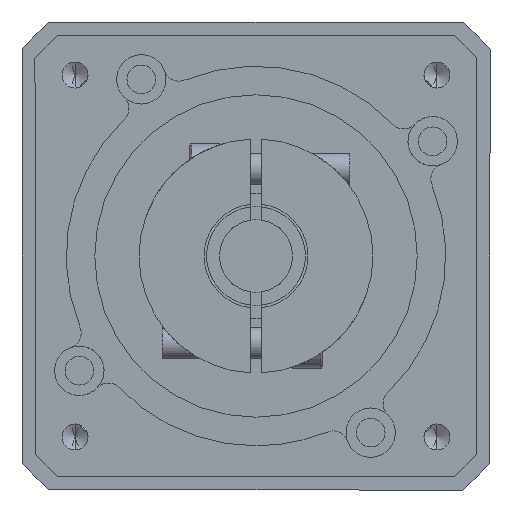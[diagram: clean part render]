
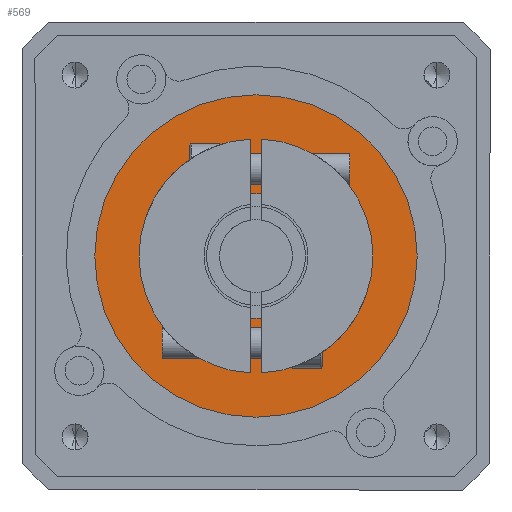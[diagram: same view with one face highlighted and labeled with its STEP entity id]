
A CAD part, front view. The second image highlights one B-rep face of the part: STEP entity #569.
In plain terms, the highlighted planar face has unit normal (0, -1, 0).
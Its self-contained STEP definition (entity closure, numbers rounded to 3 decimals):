
#74 = CARTESIAN_POINT ( 'NONE',  ( 0., -95.6, 12. ) ) ;
#220 = EDGE_CURVE ( 'NONE', #2511, #7448, #6082, .T. ) ;
#518 = EDGE_LOOP ( 'NONE', ( #7214, #2269 ) ) ;
#569 = ADVANCED_FACE ( 'NONE', ( #705, #2346 ), #836, .F. ) ;
#672 = DIRECTION ( 'NONE',  ( 0., 1., 0. ) ) ;
#705 = FACE_OUTER_BOUND ( 'NONE', #518, .T. ) ;
#746 = DIRECTION ( 'NONE',  ( 0., 1., 0. ) ) ;
#836 = PLANE ( 'NONE',  #5217 ) ;
#1343 = CARTESIAN_POINT ( 'NONE',  ( 0., -95.6, -31. ) ) ;
#1371 = AXIS2_PLACEMENT_3D ( 'NONE', #3661, #7941, #4293 ) ;
#1515 = CIRCLE ( 'NONE', #4508, 12. ) ;
#1559 = CARTESIAN_POINT ( 'NONE',  ( 0., -95.6, -12. ) ) ;
#2081 = AXIS2_PLACEMENT_3D ( 'NONE', #6795, #672, #4965 ) ;
#2269 = ORIENTED_EDGE ( 'NONE', *, *, #6586, .F. ) ;
#2346 = FACE_BOUND ( 'NONE', #5968, .T. ) ;
#2505 = AXIS2_PLACEMENT_3D ( 'NONE', #7212, #3560, #7839 ) ;
#2511 = VERTEX_POINT ( 'NONE', #7373 ) ;
#2992 = EDGE_CURVE ( 'NONE', #5127, #7878, #1515, .T. ) ;
#3560 = DIRECTION ( 'NONE',  ( 0., 1., 0. ) ) ;
#3661 = CARTESIAN_POINT ( 'NONE',  ( 0., -95.6, 0. ) ) ;
#3766 = DIRECTION ( 'NONE',  ( 0., 0., 1. ) ) ;
#3870 = DIRECTION ( 'NONE',  ( 0., 1., 0. ) ) ;
#4293 = DIRECTION ( 'NONE',  ( 0., 0., 1. ) ) ;
#4430 = CARTESIAN_POINT ( 'NONE',  ( 0., -95.6, 0. ) ) ;
#4508 = AXIS2_PLACEMENT_3D ( 'NONE', #4430, #746, #5052 ) ;
#4629 = CIRCLE ( 'NONE', #2505, 31. ) ;
#4965 = DIRECTION ( 'NONE',  ( 0., 0., 1. ) ) ;
#5052 = DIRECTION ( 'NONE',  ( 0., 0., 1. ) ) ;
#5127 = VERTEX_POINT ( 'NONE', #1559 ) ;
#5217 = AXIS2_PLACEMENT_3D ( 'NONE', #74, #3870, #3766 ) ;
#5295 = ORIENTED_EDGE ( 'NONE', *, *, #2992, .T. ) ;
#5399 = CARTESIAN_POINT ( 'NONE',  ( 0., -95.6, 12. ) ) ;
#5687 = EDGE_CURVE ( 'NONE', #7878, #5127, #6944, .T. ) ;
#5789 = ORIENTED_EDGE ( 'NONE', *, *, #5687, .T. ) ;
#5968 = EDGE_LOOP ( 'NONE', ( #5789, #5295 ) ) ;
#6082 = CIRCLE ( 'NONE', #2081, 31. ) ;
#6586 = EDGE_CURVE ( 'NONE', #7448, #2511, #4629, .T. ) ;
#6795 = CARTESIAN_POINT ( 'NONE',  ( 0., -95.6, 0. ) ) ;
#6944 = CIRCLE ( 'NONE', #1371, 12. ) ;
#7212 = CARTESIAN_POINT ( 'NONE',  ( 0., -95.6, 0. ) ) ;
#7214 = ORIENTED_EDGE ( 'NONE', *, *, #220, .F. ) ;
#7373 = CARTESIAN_POINT ( 'NONE',  ( 0., -95.6, 31. ) ) ;
#7448 = VERTEX_POINT ( 'NONE', #1343 ) ;
#7839 = DIRECTION ( 'NONE',  ( 0., 0., 1. ) ) ;
#7878 = VERTEX_POINT ( 'NONE', #5399 ) ;
#7941 = DIRECTION ( 'NONE',  ( 0., 1., 0. ) ) ;
